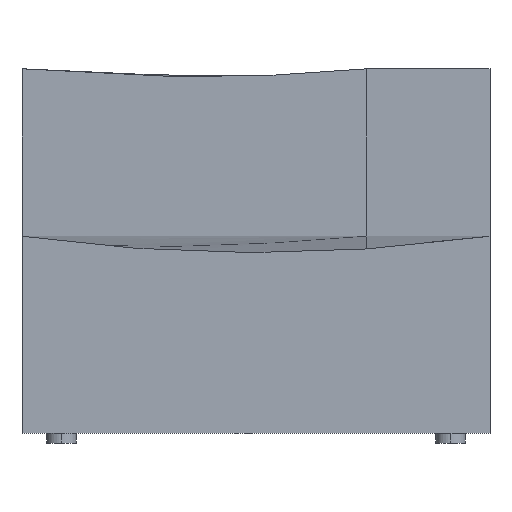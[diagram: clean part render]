
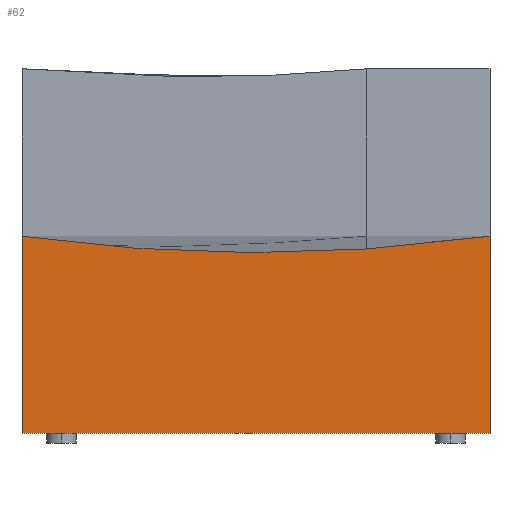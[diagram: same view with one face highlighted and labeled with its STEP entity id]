
A CAD part, front view. The second image highlights one B-rep face of the part: STEP entity #62.
In plain terms, the highlighted planar face has unit normal (0, -1, 0).
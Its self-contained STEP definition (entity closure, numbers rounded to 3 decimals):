
#62=ADVANCED_FACE('',(#91),#366,.T.);
#91=FACE_OUTER_BOUND('',#120,.T.);
#120=EDGE_LOOP('',(#173,#174,#175,#176,#177));
#173=ORIENTED_EDGE('',*,*,#272,.T.);
#174=ORIENTED_EDGE('',*,*,#268,.T.);
#175=ORIENTED_EDGE('',*,*,#255,.T.);
#176=ORIENTED_EDGE('',*,*,#248,.F.);
#177=ORIENTED_EDGE('',*,*,#269,.T.);
#248=EDGE_CURVE('',#330,#331,#301,.T.);
#255=EDGE_CURVE('',#336,#331,#308,.T.);
#268=EDGE_CURVE('',#344,#336,#321,.T.);
#269=EDGE_CURVE('',#330,#343,#322,.T.);
#272=EDGE_CURVE('',#343,#344,#325,.T.);
#301=B_SPLINE_CURVE_WITH_KNOTS('',2,(#594,#595,#596),.UNSPECIFIED.,.F.,
 .F.,(3,3),(0.,700.),.UNSPECIFIED.);
#308=B_SPLINE_CURVE_WITH_KNOTS('',2,(#615,#616,#617),.UNSPECIFIED.,.F.,
 .F.,(3,3),(0.,250.),.UNSPECIFIED.);
#321=B_SPLINE_CURVE_WITH_KNOTS('',1,(#646,#647),.UNSPECIFIED.,.F.,.F.,(2,
2),(0.,400.),.UNSPECIFIED.);
#322=B_SPLINE_CURVE_WITH_KNOTS('',1,(#648,#649),.UNSPECIFIED.,.F.,.F.,(2,
2),(-400.,0.),.UNSPECIFIED.);
#325=B_SPLINE_CURVE_WITH_KNOTS('',1,(#654,#655),.UNSPECIFIED.,.F.,.F.,(2,
2),(-950.,0.),.UNSPECIFIED.);
#330=VERTEX_POINT('',#574);
#331=VERTEX_POINT('',#575);
#336=VERTEX_POINT('',#580);
#343=VERTEX_POINT('',#587);
#344=VERTEX_POINT('',#588);
#366=PLANE('',#475);
#475=AXIS2_PLACEMENT_3D('',#568,#502,$);
#502=DIRECTION('',(0.,-1.,0.));
#568=CARTESIAN_POINT('',(-1203.134,331.476,20.));
#574=CARTESIAN_POINT('',(-1203.134,331.476,420.));
#575=CARTESIAN_POINT('',(-503.134,331.476,394.318));
#580=CARTESIAN_POINT('',(-253.134,331.476,420.));
#587=CARTESIAN_POINT('',(-1203.134,331.476,20.));
#588=CARTESIAN_POINT('',(-253.134,331.476,20.));
#594=CARTESIAN_POINT('',(-1203.134,331.476,420.));
#595=CARTESIAN_POINT('',(-853.134,331.476,371.203));
#596=CARTESIAN_POINT('',(-503.134,331.476,394.318));
#615=CARTESIAN_POINT('',(-253.134,331.476,420.));
#616=CARTESIAN_POINT('',(-378.134,331.476,402.573));
#617=CARTESIAN_POINT('',(-503.134,331.476,394.318));
#646=CARTESIAN_POINT('',(-253.134,331.476,20.));
#647=CARTESIAN_POINT('',(-253.134,331.476,420.));
#648=CARTESIAN_POINT('',(-1203.134,331.476,420.));
#649=CARTESIAN_POINT('',(-1203.134,331.476,20.));
#654=CARTESIAN_POINT('',(-1203.134,331.476,20.));
#655=CARTESIAN_POINT('',(-253.134,331.476,20.));
